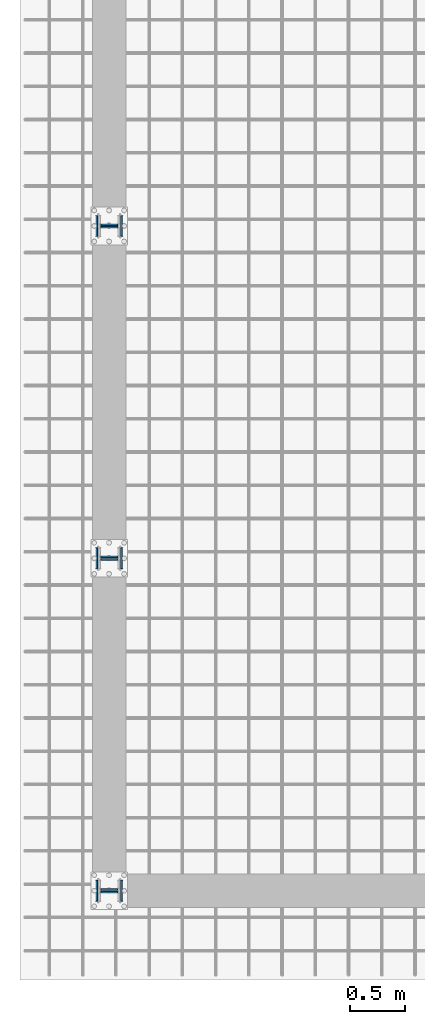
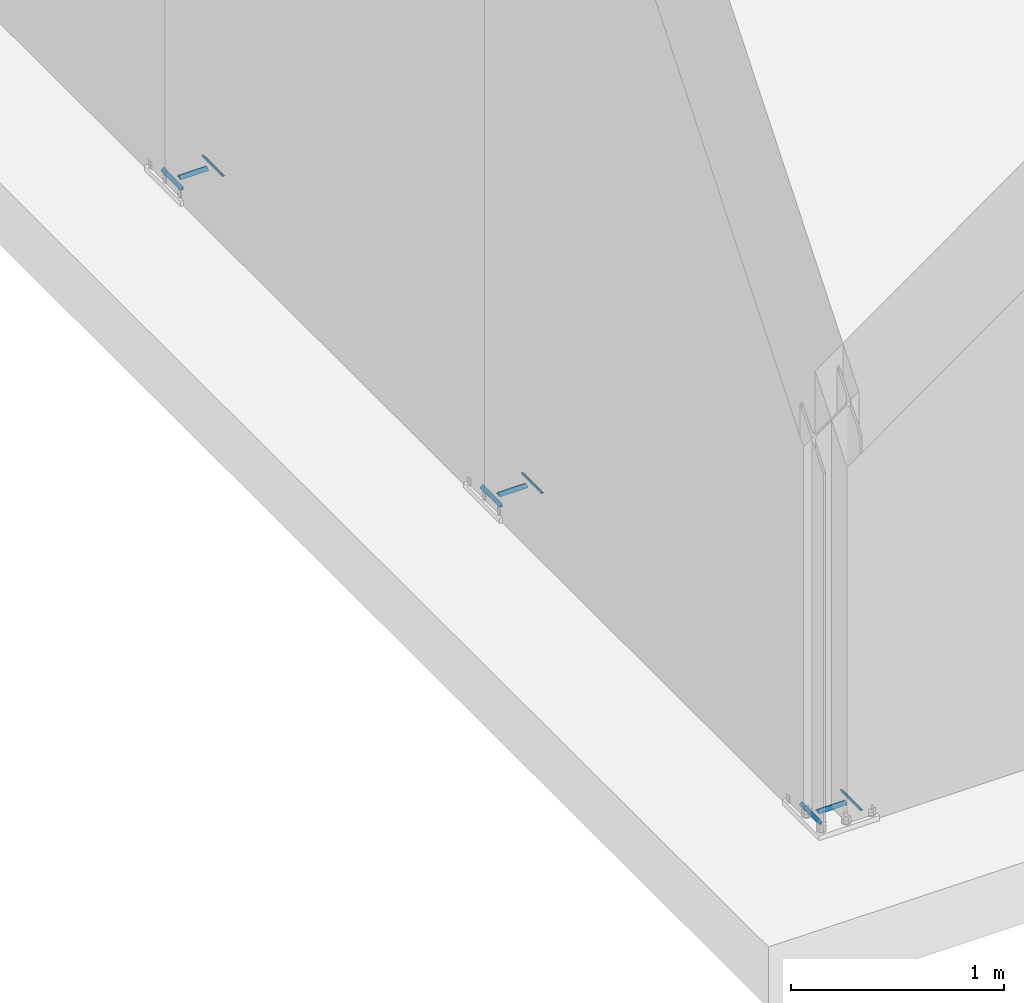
# One storey, part 7 of 29: 24 fasteners.
"""IFC4 building model written with IfcOpenShell, lengths in metres."""

from ifc_helpers import new_model, si_unit, frame, origin_with_axes, place, context, project, spatial, polyline, outline, extrude, type_object, element, save


model = new_model("IFC4")

# Units and contexts
model_context = context("Model", 3, precision=1e-05, world=origin_with_axes())
ifc_project = project(units=[si_unit("LENGTHUNIT", "METRE"), si_unit("AREAUNIT", "SQUARE_METRE"), si_unit("VOLUMEUNIT", "CUBIC_METRE"), si_unit("MASSUNIT", "GRAM", prefix="KILO"), si_unit("TIMEUNIT", "SECOND"), si_unit("PLANEANGLEUNIT", "RADIAN"), si_unit("SOLIDANGLEUNIT", "STERADIAN"), si_unit("THERMODYNAMICTEMPERATUREUNIT", "DEGREE_CELSIUS")], contexts=[model_context])

# Site, building, storey
placement_1 = place(None, origin_with_axes())
site = spatial("IfcSite", under=ifc_project, at=placement_1, Name="Italia", CompositionType="ELEMENT")
building = spatial("IfcBuilding", under=site, at=placement_1, Name="Capannone", CompositionType="ELEMENT")
storey = spatial("IfcBuildingStorey", under=building, at=placement_1, Name="Storey 0", CompositionType="ELEMENT", Elevation=0.0)

# Fasteners
fastener_type_1 = type_object("IfcFastenerType", Name="Collegamenti 0001_0101 0002_0102 0003_0103 0004_0104 0005_0105 0006_0106 0007_0107 0008_0108 0009_0109 0010_0110 0011_0111 0012_0112", PredefinedType="WELD")
placement_2 = place(placement_1, origin_with_axes())
fastener_1_placement = place(placement_2, origin_with_axes())
element("IfcFastener", 1, at=fastener_1_placement, inside=storey, type_object=fastener_type_1, Name="Collegamenti 0001_0101 0002_0102 0003_0103 0004_0104 0005_0105 0006_0106 0007_0107 0008_0108 0009_0109 0010_0110 0011_0111 0012_0112", context=model_context, shape_type="SweptSolid", body=[
    extrude(outline(polyline([(0.0, 0.0), (0.0156882, 0.0161734), (0.0156882, 0.0), (0.0, 0.0)])), frame((-0.120638, 0.09405, 0.02995), z_axis=(0.0, -1.0, 0.0), x_axis=(1.0, 0.0, 0.0)), (0.0, 0.0, 1.0), 0.1881),
])
fastener_type_2 = type_object("IfcFastenerType", Name="Collegamenti 0001_0101 0002_0102 0003_0103 0004_0104 0005_0105 0006_0106 0007_0107 0008_0108 0009_0109 0010_0110 0011_0111 0012_0112", PredefinedType="WELD")
fastener_2_placement = place(placement_2, origin_with_axes())
element("IfcFastener", 2, at=fastener_2_placement, inside=storey, type_object=fastener_type_2, Name="Collegamenti 0001_0101 0002_0102 0003_0103 0004_0104 0005_0105 0006_0106 0007_0107 0008_0108 0009_0109 0010_0110 0011_0111 0012_0112", context=model_context, shape_type="SweptSolid", body=[
    extrude(outline(polyline([(0.0, 0.0), (0.0156882, 0.0161734), (0.0156882, 0.0), (0.0, 0.0)])), frame((0.120638, -0.09405, 0.02995), z_axis=(0.0, 1.0, 0.0), x_axis=(-1.0, 0.0, 0.0)), (0.0, 0.0, 1.0), 0.1881),
])
fastener_type_3 = type_object("IfcFastenerType", Name="Collegamenti 0001_0101 0002_0102 0003_0103 0004_0104 0005_0105 0006_0106 0007_0107 0008_0108 0009_0109 0010_0110 0011_0111 0012_0112", PredefinedType="WELD")
fastener_3_placement = place(placement_2, origin_with_axes())
element("IfcFastener", 3, at=fastener_3_placement, inside=storey, type_object=fastener_type_3, Name="Collegamenti 0001_0101 0002_0102 0003_0103 0004_0104 0005_0105 0006_0106 0007_0107 0008_0108 0009_0109 0010_0110 0011_0111 0012_0112", context=model_context, shape_type="SweptSolid", body=[
    extrude(outline(polyline([(0.0, 0.0), (0.0156882, 0.0161734), (0.0156882, 0.0), (0.0, 0.0)])), frame((0.07605, 0.0191382, 0.02995), z_axis=(-1.0, 0.0, 0.0), x_axis=(0.0, -1.0, 0.0)), (0.0, 0.0, 1.0), 0.1521),
])
fastener_type_4 = type_object("IfcFastenerType", Name="Collegamenti 0001_0101 0002_0102 0003_0103 0004_0104 0005_0105 0006_0106 0007_0107 0008_0108 0009_0109 0010_0110 0011_0111 0012_0112", PredefinedType="WELD")
fastener_4_placement = place(placement_2, origin_with_axes())
element("IfcFastener", 4, at=fastener_4_placement, inside=storey, type_object=fastener_type_4, Name="Collegamenti 0001_0101 0002_0102 0003_0103 0004_0104 0005_0105 0006_0106 0007_0107 0008_0108 0009_0109 0010_0110 0011_0111 0012_0112", context=model_context, shape_type="SweptSolid", body=[
    extrude(outline(polyline([(0.0, 0.0), (0.0156882, 0.0161734), (0.0156882, 0.0), (0.0, 0.0)])), frame((-0.07605, -0.0191382, 0.02995), z_axis=(1.0, 0.0, 0.0), x_axis=(0.0, 1.0, 0.0)), (0.0, 0.0, 1.0), 0.1521),
])
fastener_type_5 = type_object("IfcFastenerType", Name="Collegamenti 0001_0101 0002_0102 0003_0103 0004_0104 0005_0105 0006_0106 0007_0107 0008_0108 0009_0109 0010_0110 0011_0111 0012_0112", PredefinedType="WELD")
fastener_5_placement = place(placement_2, origin_with_axes())
element("IfcFastener", 5, at=fastener_5_placement, inside=storey, type_object=fastener_type_5, Name="Collegamenti 0001_0101 0002_0102 0003_0103 0004_0104 0005_0105 0006_0106 0007_0107 0008_0108 0009_0109 0010_0110 0011_0111 0012_0112", context=model_context, shape_type="SweptSolid", body=[
    extrude(outline(polyline([(0.0, 0.0), (0.0156882, 0.0161734), (0.0156882, 0.0), (0.0, 0.0)])), frame((-0.120638, 0.09405, 0.02995), z_axis=(0.0, -1.0, 0.0), x_axis=(1.0, 0.0, 0.0)), (0.0, 0.0, 1.0), 0.1881),
])
fastener_type_6 = type_object("IfcFastenerType", Name="Collegamenti 0001_0101 0002_0102 0003_0103 0004_0104 0005_0105 0006_0106 0007_0107 0008_0108 0009_0109 0010_0110 0011_0111 0012_0112", PredefinedType="WELD")
fastener_6_placement = place(placement_2, origin_with_axes())
element("IfcFastener", 6, at=fastener_6_placement, inside=storey, type_object=fastener_type_6, Name="Collegamenti 0001_0101 0002_0102 0003_0103 0004_0104 0005_0105 0006_0106 0007_0107 0008_0108 0009_0109 0010_0110 0011_0111 0012_0112", context=model_context, shape_type="SweptSolid", body=[
    extrude(outline(polyline([(0.0, 0.0), (0.0156882, 0.0161734), (0.0156882, 0.0), (0.0, 0.0)])), frame((0.120638, -0.09405, 0.02995), z_axis=(0.0, 1.0, 0.0), x_axis=(-1.0, 0.0, 0.0)), (0.0, 0.0, 1.0), 0.1881),
])
fastener_type_7 = type_object("IfcFastenerType", Name="Collegamenti 0001_0101 0002_0102 0003_0103 0004_0104 0005_0105 0006_0106 0007_0107 0008_0108 0009_0109 0010_0110 0011_0111 0012_0112", PredefinedType="WELD")
fastener_7_placement = place(placement_2, origin_with_axes())
element("IfcFastener", 7, at=fastener_7_placement, inside=storey, type_object=fastener_type_7, Name="Collegamenti 0001_0101 0002_0102 0003_0103 0004_0104 0005_0105 0006_0106 0007_0107 0008_0108 0009_0109 0010_0110 0011_0111 0012_0112", context=model_context, shape_type="SweptSolid", body=[
    extrude(outline(polyline([(0.0, 0.0), (0.0156882, 0.0161734), (0.0156882, 0.0), (0.0, 0.0)])), frame((0.07605, 0.0191382, 0.02995), z_axis=(-1.0, 0.0, 0.0), x_axis=(0.0, -1.0, 0.0)), (0.0, 0.0, 1.0), 0.1521),
])
fastener_type_8 = type_object("IfcFastenerType", Name="Collegamenti 0001_0101 0002_0102 0003_0103 0004_0104 0005_0105 0006_0106 0007_0107 0008_0108 0009_0109 0010_0110 0011_0111 0012_0112", PredefinedType="WELD")
fastener_8_placement = place(placement_2, origin_with_axes())
element("IfcFastener", 8, at=fastener_8_placement, inside=storey, type_object=fastener_type_8, Name="Collegamenti 0001_0101 0002_0102 0003_0103 0004_0104 0005_0105 0006_0106 0007_0107 0008_0108 0009_0109 0010_0110 0011_0111 0012_0112", context=model_context, shape_type="SweptSolid", body=[
    extrude(outline(polyline([(0.0, 0.0), (0.0156882, 0.0161734), (0.0156882, 0.0), (0.0, 0.0)])), frame((-0.07605, -0.0191382, 0.02995), z_axis=(1.0, 0.0, 0.0), x_axis=(0.0, 1.0, 0.0)), (0.0, 0.0, 1.0), 0.1521),
])
fastener_type_9 = type_object("IfcFastenerType", Name="Collegamenti 0001_0101 0002_0102 0003_0103 0004_0104 0005_0105 0006_0106 0007_0107 0008_0108 0009_0109 0010_0110 0011_0111 0012_0112", PredefinedType="WELD")
fastener_9_placement = place(placement_2, origin_with_axes())
element("IfcFastener", 9, at=fastener_9_placement, inside=storey, type_object=fastener_type_9, Name="Collegamenti 0001_0101 0002_0102 0003_0103 0004_0104 0005_0105 0006_0106 0007_0107 0008_0108 0009_0109 0010_0110 0011_0111 0012_0112", context=model_context, shape_type="SweptSolid", body=[
    extrude(outline(polyline([(0.0, 0.0), (0.0156882, 0.0161734), (0.0156882, 0.0), (0.0, 0.0)])), frame((-0.120638, 3.09405, 0.02995), z_axis=(0.0, -1.0, 0.0), x_axis=(1.0, 0.0, 0.0)), (0.0, 0.0, 1.0), 0.1881),
])
fastener_type_10 = type_object("IfcFastenerType", Name="Collegamenti 0001_0101 0002_0102 0003_0103 0004_0104 0005_0105 0006_0106 0007_0107 0008_0108 0009_0109 0010_0110 0011_0111 0012_0112", PredefinedType="WELD")
fastener_10_placement = place(placement_2, origin_with_axes())
element("IfcFastener", 10, at=fastener_10_placement, inside=storey, type_object=fastener_type_10, Name="Collegamenti 0001_0101 0002_0102 0003_0103 0004_0104 0005_0105 0006_0106 0007_0107 0008_0108 0009_0109 0010_0110 0011_0111 0012_0112", context=model_context, shape_type="SweptSolid", body=[
    extrude(outline(polyline([(0.0, 0.0), (0.0156882, 0.0161734), (0.0156882, 0.0), (0.0, 0.0)])), frame((0.120638, 2.90595, 0.02995), z_axis=(0.0, 1.0, 0.0), x_axis=(-1.0, 0.0, 0.0)), (0.0, 0.0, 1.0), 0.1881),
])
fastener_type_11 = type_object("IfcFastenerType", Name="Collegamenti 0001_0101 0002_0102 0003_0103 0004_0104 0005_0105 0006_0106 0007_0107 0008_0108 0009_0109 0010_0110 0011_0111 0012_0112", PredefinedType="WELD")
fastener_11_placement = place(placement_2, origin_with_axes())
element("IfcFastener", 11, at=fastener_11_placement, inside=storey, type_object=fastener_type_11, Name="Collegamenti 0001_0101 0002_0102 0003_0103 0004_0104 0005_0105 0006_0106 0007_0107 0008_0108 0009_0109 0010_0110 0011_0111 0012_0112", context=model_context, shape_type="SweptSolid", body=[
    extrude(outline(polyline([(0.0, 0.0), (0.0156882, 0.0161734), (0.0156882, 0.0), (0.0, 0.0)])), frame((0.07605, 3.01914, 0.02995), z_axis=(-1.0, 0.0, 0.0), x_axis=(0.0, -1.0, 0.0)), (0.0, 0.0, 1.0), 0.1521),
])
fastener_type_12 = type_object("IfcFastenerType", Name="Collegamenti 0001_0101 0002_0102 0003_0103 0004_0104 0005_0105 0006_0106 0007_0107 0008_0108 0009_0109 0010_0110 0011_0111 0012_0112", PredefinedType="WELD")
fastener_12_placement = place(placement_2, origin_with_axes())
element("IfcFastener", 12, at=fastener_12_placement, inside=storey, type_object=fastener_type_12, Name="Collegamenti 0001_0101 0002_0102 0003_0103 0004_0104 0005_0105 0006_0106 0007_0107 0008_0108 0009_0109 0010_0110 0011_0111 0012_0112", context=model_context, shape_type="SweptSolid", body=[
    extrude(outline(polyline([(0.0, 0.0), (0.0156882, 0.0161734), (0.0156882, 0.0), (0.0, 0.0)])), frame((-0.07605, 2.98086, 0.02995), z_axis=(1.0, 0.0, 0.0), x_axis=(0.0, 1.0, 0.0)), (0.0, 0.0, 1.0), 0.1521),
])
fastener_type_13 = type_object("IfcFastenerType", Name="Collegamenti 0001_0101 0002_0102 0003_0103 0004_0104 0005_0105 0006_0106 0007_0107 0008_0108 0009_0109 0010_0110 0011_0111 0012_0112", PredefinedType="WELD")
fastener_13_placement = place(placement_2, origin_with_axes())
element("IfcFastener", 13, at=fastener_13_placement, inside=storey, type_object=fastener_type_13, Name="Collegamenti 0001_0101 0002_0102 0003_0103 0004_0104 0005_0105 0006_0106 0007_0107 0008_0108 0009_0109 0010_0110 0011_0111 0012_0112", context=model_context, shape_type="SweptSolid", body=[
    extrude(outline(polyline([(0.0, 0.0), (0.0156882, 0.0161734), (0.0156882, 0.0), (0.0, 0.0)])), frame((-0.120638, 3.09405, 0.02995), z_axis=(0.0, -1.0, 0.0), x_axis=(1.0, 0.0, 0.0)), (0.0, 0.0, 1.0), 0.1881),
])
fastener_type_14 = type_object("IfcFastenerType", Name="Collegamenti 0001_0101 0002_0102 0003_0103 0004_0104 0005_0105 0006_0106 0007_0107 0008_0108 0009_0109 0010_0110 0011_0111 0012_0112", PredefinedType="WELD")
fastener_14_placement = place(placement_2, origin_with_axes())
element("IfcFastener", 14, at=fastener_14_placement, inside=storey, type_object=fastener_type_14, Name="Collegamenti 0001_0101 0002_0102 0003_0103 0004_0104 0005_0105 0006_0106 0007_0107 0008_0108 0009_0109 0010_0110 0011_0111 0012_0112", context=model_context, shape_type="SweptSolid", body=[
    extrude(outline(polyline([(0.0, 0.0), (0.0156882, 0.0161734), (0.0156882, 0.0), (0.0, 0.0)])), frame((0.120638, 2.90595, 0.02995), z_axis=(0.0, 1.0, 0.0), x_axis=(-1.0, 0.0, 0.0)), (0.0, 0.0, 1.0), 0.1881),
])
fastener_type_15 = type_object("IfcFastenerType", Name="Collegamenti 0001_0101 0002_0102 0003_0103 0004_0104 0005_0105 0006_0106 0007_0107 0008_0108 0009_0109 0010_0110 0011_0111 0012_0112", PredefinedType="WELD")
fastener_15_placement = place(placement_2, origin_with_axes())
element("IfcFastener", 15, at=fastener_15_placement, inside=storey, type_object=fastener_type_15, Name="Collegamenti 0001_0101 0002_0102 0003_0103 0004_0104 0005_0105 0006_0106 0007_0107 0008_0108 0009_0109 0010_0110 0011_0111 0012_0112", context=model_context, shape_type="SweptSolid", body=[
    extrude(outline(polyline([(0.0, 0.0), (0.0156882, 0.0161734), (0.0156882, 0.0), (0.0, 0.0)])), frame((0.07605, 3.01914, 0.02995), z_axis=(-1.0, 0.0, 0.0), x_axis=(0.0, -1.0, 0.0)), (0.0, 0.0, 1.0), 0.1521),
])
fastener_type_16 = type_object("IfcFastenerType", Name="Collegamenti 0001_0101 0002_0102 0003_0103 0004_0104 0005_0105 0006_0106 0007_0107 0008_0108 0009_0109 0010_0110 0011_0111 0012_0112", PredefinedType="WELD")
fastener_16_placement = place(placement_2, origin_with_axes())
element("IfcFastener", 16, at=fastener_16_placement, inside=storey, type_object=fastener_type_16, Name="Collegamenti 0001_0101 0002_0102 0003_0103 0004_0104 0005_0105 0006_0106 0007_0107 0008_0108 0009_0109 0010_0110 0011_0111 0012_0112", context=model_context, shape_type="SweptSolid", body=[
    extrude(outline(polyline([(0.0, 0.0), (0.0156882, 0.0161734), (0.0156882, 0.0), (0.0, 0.0)])), frame((-0.07605, 2.98086, 0.02995), z_axis=(1.0, 0.0, 0.0), x_axis=(0.0, 1.0, 0.0)), (0.0, 0.0, 1.0), 0.1521),
])
fastener_type_17 = type_object("IfcFastenerType", Name="Collegamenti 0001_0101 0002_0102 0003_0103 0004_0104 0005_0105 0006_0106 0007_0107 0008_0108 0009_0109 0010_0110 0011_0111 0012_0112", PredefinedType="WELD")
fastener_17_placement = place(placement_2, origin_with_axes())
element("IfcFastener", 17, at=fastener_17_placement, inside=storey, type_object=fastener_type_17, Name="Collegamenti 0001_0101 0002_0102 0003_0103 0004_0104 0005_0105 0006_0106 0007_0107 0008_0108 0009_0109 0010_0110 0011_0111 0012_0112", context=model_context, shape_type="SweptSolid", body=[
    extrude(outline(polyline([(0.0, 0.0), (0.0156882, 0.0161734), (0.0156882, 0.0), (0.0, 0.0)])), frame((-0.120638, 6.09405, 0.02995), z_axis=(0.0, -1.0, 0.0), x_axis=(1.0, 0.0, 0.0)), (0.0, 0.0, 1.0), 0.1881),
])
fastener_type_18 = type_object("IfcFastenerType", Name="Collegamenti 0001_0101 0002_0102 0003_0103 0004_0104 0005_0105 0006_0106 0007_0107 0008_0108 0009_0109 0010_0110 0011_0111 0012_0112", PredefinedType="WELD")
fastener_18_placement = place(placement_2, origin_with_axes())
element("IfcFastener", 18, at=fastener_18_placement, inside=storey, type_object=fastener_type_18, Name="Collegamenti 0001_0101 0002_0102 0003_0103 0004_0104 0005_0105 0006_0106 0007_0107 0008_0108 0009_0109 0010_0110 0011_0111 0012_0112", context=model_context, shape_type="SweptSolid", body=[
    extrude(outline(polyline([(0.0, 0.0), (0.0156882, 0.0161734), (0.0156882, 0.0), (0.0, 0.0)])), frame((0.120638, 5.90595, 0.02995), z_axis=(0.0, 1.0, 0.0), x_axis=(-1.0, 0.0, 0.0)), (0.0, 0.0, 1.0), 0.1881),
])
fastener_type_19 = type_object("IfcFastenerType", Name="Collegamenti 0001_0101 0002_0102 0003_0103 0004_0104 0005_0105 0006_0106 0007_0107 0008_0108 0009_0109 0010_0110 0011_0111 0012_0112", PredefinedType="WELD")
fastener_19_placement = place(placement_2, origin_with_axes())
element("IfcFastener", 19, at=fastener_19_placement, inside=storey, type_object=fastener_type_19, Name="Collegamenti 0001_0101 0002_0102 0003_0103 0004_0104 0005_0105 0006_0106 0007_0107 0008_0108 0009_0109 0010_0110 0011_0111 0012_0112", context=model_context, shape_type="SweptSolid", body=[
    extrude(outline(polyline([(0.0, 0.0), (0.0156884, 0.0161734), (0.0156884, 0.0), (0.0, 0.0)])), frame((0.07605, 6.01914, 0.02995), z_axis=(-1.0, 0.0, 0.0), x_axis=(0.0, -1.0, 0.0)), (0.0, 0.0, 1.0), 0.1521),
])
fastener_type_20 = type_object("IfcFastenerType", Name="Collegamenti 0001_0101 0002_0102 0003_0103 0004_0104 0005_0105 0006_0106 0007_0107 0008_0108 0009_0109 0010_0110 0011_0111 0012_0112", PredefinedType="WELD")
fastener_20_placement = place(placement_2, origin_with_axes())
element("IfcFastener", 20, at=fastener_20_placement, inside=storey, type_object=fastener_type_20, Name="Collegamenti 0001_0101 0002_0102 0003_0103 0004_0104 0005_0105 0006_0106 0007_0107 0008_0108 0009_0109 0010_0110 0011_0111 0012_0112", context=model_context, shape_type="SweptSolid", body=[
    extrude(outline(polyline([(0.0, 0.0), (0.0156884, 0.0161734), (0.0156884, 0.0), (0.0, 0.0)])), frame((-0.07605, 5.98086, 0.02995), z_axis=(1.0, 0.0, 0.0), x_axis=(0.0, 1.0, 0.0)), (0.0, 0.0, 1.0), 0.1521),
])
fastener_type_21 = type_object("IfcFastenerType", Name="Collegamenti 0001_0101 0002_0102 0003_0103 0004_0104 0005_0105 0006_0106 0007_0107 0008_0108 0009_0109 0010_0110 0011_0111 0012_0112", PredefinedType="WELD")
fastener_21_placement = place(placement_2, origin_with_axes())
element("IfcFastener", 21, at=fastener_21_placement, inside=storey, type_object=fastener_type_21, Name="Collegamenti 0001_0101 0002_0102 0003_0103 0004_0104 0005_0105 0006_0106 0007_0107 0008_0108 0009_0109 0010_0110 0011_0111 0012_0112", context=model_context, shape_type="SweptSolid", body=[
    extrude(outline(polyline([(0.0, 0.0), (0.0156882, 0.0161734), (0.0156882, 0.0), (0.0, 0.0)])), frame((-0.120638, 6.09405, 0.02995), z_axis=(0.0, -1.0, 0.0), x_axis=(1.0, 0.0, 0.0)), (0.0, 0.0, 1.0), 0.1881),
])
fastener_type_22 = type_object("IfcFastenerType", Name="Collegamenti 0001_0101 0002_0102 0003_0103 0004_0104 0005_0105 0006_0106 0007_0107 0008_0108 0009_0109 0010_0110 0011_0111 0012_0112", PredefinedType="WELD")
fastener_22_placement = place(placement_2, origin_with_axes())
element("IfcFastener", 22, at=fastener_22_placement, inside=storey, type_object=fastener_type_22, Name="Collegamenti 0001_0101 0002_0102 0003_0103 0004_0104 0005_0105 0006_0106 0007_0107 0008_0108 0009_0109 0010_0110 0011_0111 0012_0112", context=model_context, shape_type="SweptSolid", body=[
    extrude(outline(polyline([(0.0, 0.0), (0.0156882, 0.0161734), (0.0156882, 0.0), (0.0, 0.0)])), frame((0.120638, 5.90595, 0.02995), z_axis=(0.0, 1.0, 0.0), x_axis=(-1.0, 0.0, 0.0)), (0.0, 0.0, 1.0), 0.1881),
])
fastener_type_23 = type_object("IfcFastenerType", Name="Collegamenti 0001_0101 0002_0102 0003_0103 0004_0104 0005_0105 0006_0106 0007_0107 0008_0108 0009_0109 0010_0110 0011_0111 0012_0112", PredefinedType="WELD")
fastener_23_placement = place(placement_2, origin_with_axes())
element("IfcFastener", 23, at=fastener_23_placement, inside=storey, type_object=fastener_type_23, Name="Collegamenti 0001_0101 0002_0102 0003_0103 0004_0104 0005_0105 0006_0106 0007_0107 0008_0108 0009_0109 0010_0110 0011_0111 0012_0112", context=model_context, shape_type="SweptSolid", body=[
    extrude(outline(polyline([(0.0, 0.0), (0.0156884, 0.0161734), (0.0156884, 0.0), (0.0, 0.0)])), frame((0.07605, 6.01914, 0.02995), z_axis=(-1.0, 0.0, 0.0), x_axis=(0.0, -1.0, 0.0)), (0.0, 0.0, 1.0), 0.1521),
])
fastener_type_24 = type_object("IfcFastenerType", Name="Collegamenti 0001_0101 0002_0102 0003_0103 0004_0104 0005_0105 0006_0106 0007_0107 0008_0108 0009_0109 0010_0110 0011_0111 0012_0112", PredefinedType="WELD")
fastener_24_placement = place(placement_2, origin_with_axes())
element("IfcFastener", 24, at=fastener_24_placement, inside=storey, type_object=fastener_type_24, Name="Collegamenti 0001_0101 0002_0102 0003_0103 0004_0104 0005_0105 0006_0106 0007_0107 0008_0108 0009_0109 0010_0110 0011_0111 0012_0112", context=model_context, shape_type="SweptSolid", body=[
    extrude(outline(polyline([(0.0, 0.0), (0.0156884, 0.0161734), (0.0156884, 0.0), (0.0, 0.0)])), frame((-0.07605, 5.98086, 0.02995), z_axis=(1.0, 0.0, 0.0), x_axis=(0.0, 1.0, 0.0)), (0.0, 0.0, 1.0), 0.1521),
])

save(model, "model.ifc")
